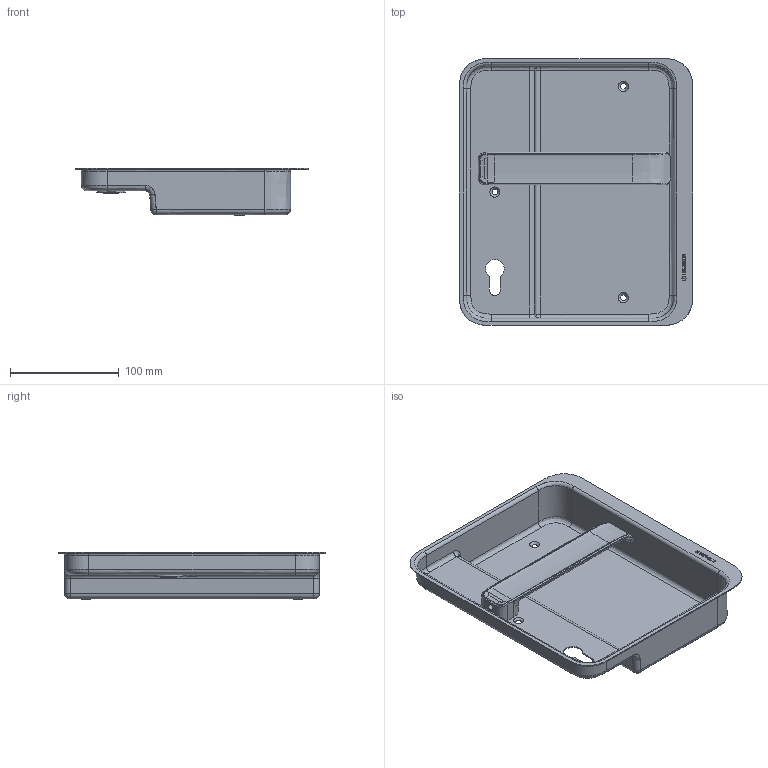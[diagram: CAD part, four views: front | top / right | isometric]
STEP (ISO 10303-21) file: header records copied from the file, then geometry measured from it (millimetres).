
FILE_DESCRIPTION(/* description */ (''),/* implementation_level */ '2;1');
FILE_NAME(/* name */ 'M:\LOC Heusser-Muscheln\Muschel Serie 9\Muschel Serie 9 EN179\Heusser-Muschel S9.42.D3.392R.stp',/* time_stamp */ '2020-10-07T12:45:15+02:00',/* author */ ('gm'),/* organization */ (''),/* preprocessor_version */ 'ST-DEVELOPER v16.5',/* originating_system */ 'Autodesk Inventor 2017',/* authorisation */ '');
FILE_SCHEMA (('AUTOMOTIVE_DESIGN { 1 0 10303 214 3 1 1 }'));
Length unit declared in the file: millimetre
Products named in the file (1): S9.42.D3.274R
Bounding box: 214 x 245 x 44 mm (x, y, z)
Volume: 114565 mm3; surface area: 177066.9 mm2
Topology: 1 solids, 2 shells, 355 faces, 915 edges, 586 vertices
Faces by surface type: bspline 180, plane 137, cylinder 22, cone 16
Full cylindrical faces by diameter (mm): 1.7 x2, 14.2 x1, 16 x3, 18 x1, 19 x1, 19.1 x1, 23 x1, 23.2 x1, 24 x1, 25 x1, 26 x1, 28 x1
Entity records: 21650 total; most frequent: CARTESIAN_POINT 13871, ORIENTED_EDGE 1748, DIRECTION 1007, EDGE_CURVE 874, VERTEX_POINT 580, LINE 441, VECTOR 441, EDGE_LOOP 432
